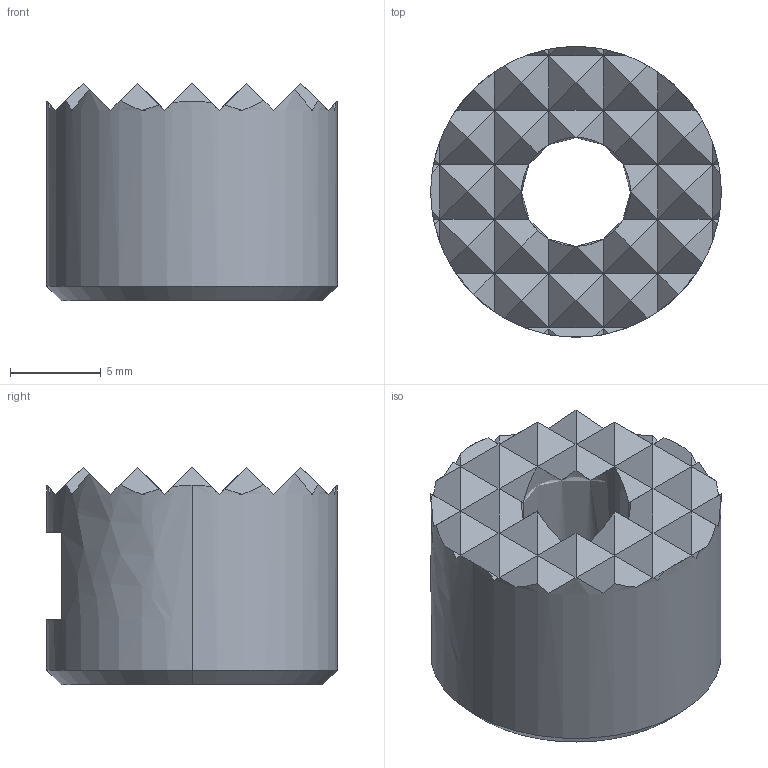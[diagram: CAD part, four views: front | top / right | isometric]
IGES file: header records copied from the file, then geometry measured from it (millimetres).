
Start section: SolidWorks IGES file using analytic representation for surfaces
Global section: file name: X:\11_SW2020-Inv2020\00_全2021-11新製品まで\h\HS-162\hs-162.IGS; native system: SolidWorks 2020; preprocessor: SolidWorks 2020; author: ImaoCorp; date: 211026.101638; units: millimetre
Bounding box: 16 x 16 x 12 mm (x, y, z)
Surface area: 1149 mm2 (no closed solid volume)
Topology: 0 solids, 0 shells, 124 faces, 580 edges, 580 vertices
Faces by surface type: bspline 116, revolution 8
